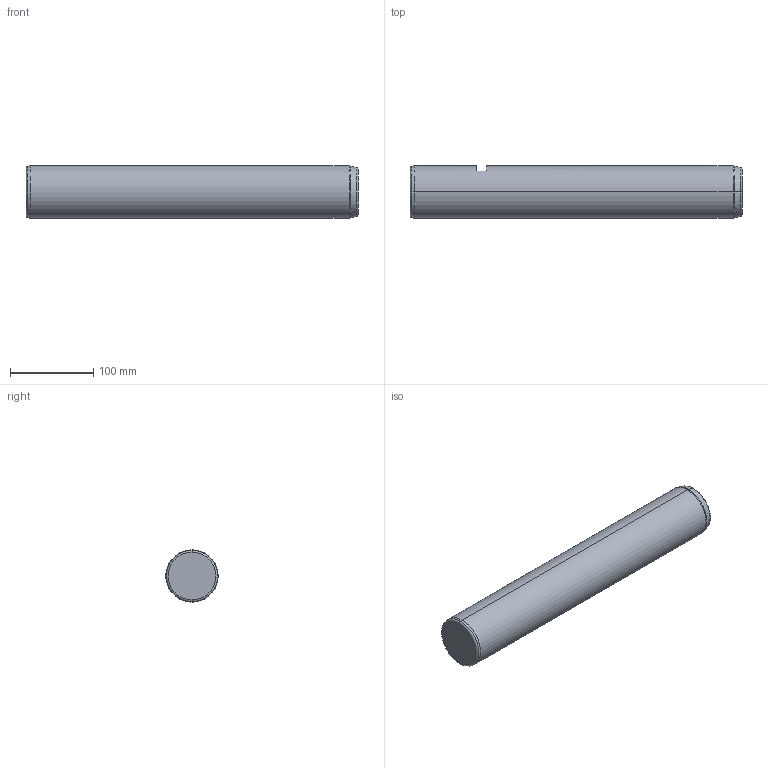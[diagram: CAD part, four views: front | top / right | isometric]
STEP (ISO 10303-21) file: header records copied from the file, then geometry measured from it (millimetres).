
FILE_DESCRIPTION (( 'STEP AP214' ), '1' );
FILE_NAME ('SP202-08-63-400.STEP', '2020-11-03T14:24:20', ( '' ), ( '' ), 'SwSTEP 2.0', 'SolidWorks 2018', '' );
FILE_SCHEMA (( 'AUTOMOTIVE_DESIGN' ));
Length unit declared in the file: millimetre
Products named in the file (1): SP202-08-63-400
Bounding box: 400 x 63 x 63 mm (x, y, z)
Volume: 1237477.8 mm3; surface area: 86043.5 mm2
Topology: 1 solids, 1 shells, 26 faces, 54 edges, 31 vertices
Faces by surface type: cylinder 8, cone 6, torus 6, plane 6
Entity records: 744 total; most frequent: CARTESIAN_POINT 150, DIRECTION 132, ORIENTED_EDGE 104, AXIS2_PLACEMENT_3D 57, EDGE_CURVE 52, VERTEX_POINT 31, CIRCLE 30, EDGE_LOOP 29
